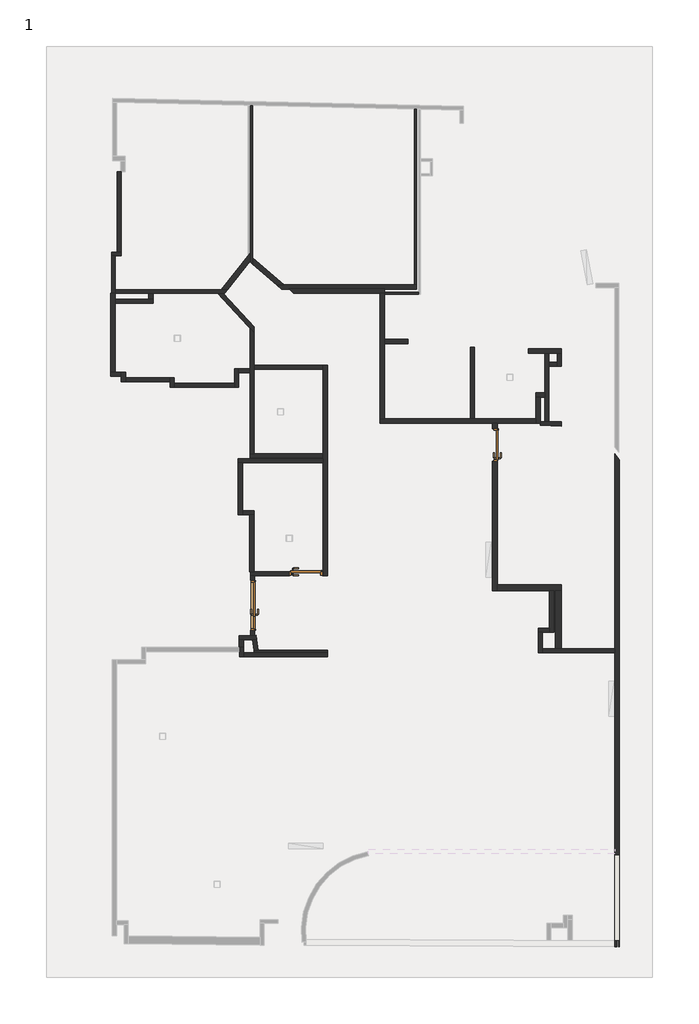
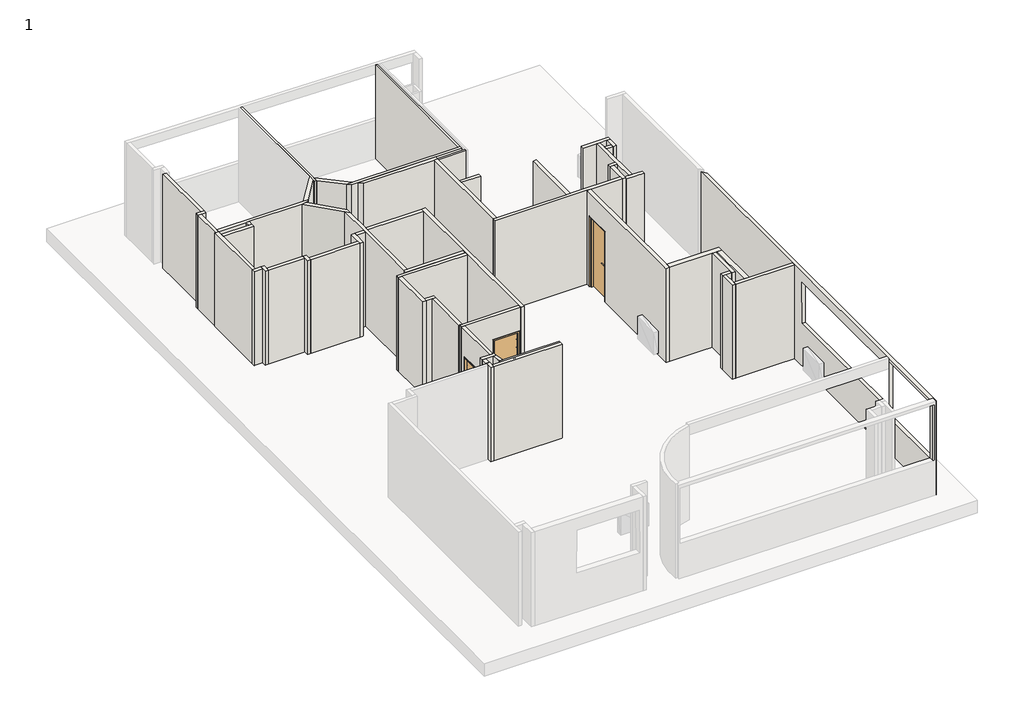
# One storey, part 3 of 11: 57 walls, 3 doors.
"""IFC4 building model written with IfcOpenShell, lengths in millimetres."""

from ifc_helpers import new_model, si_unit, frame, origin, origin_with_axes, place, context, project, spatial, polyline, circle_curve, outline, extrude, faceted_brep, transform, mapped, element, save
from ifc_brep_helpers import plane_surface, cylinder_surface, advanced_brep
from components import door_6d154dac, door_2890b558, jw_interior_door_stable_401_unequal_double_1_0_84d4197c, jw_interior_door_stable_401_unequal_double_1_0_001e30e6

model = new_model("IFC4")

# Units and contexts
model_context = context("Model", 3, world=origin())
ifc_project = project(units=[si_unit("LENGTHUNIT", "METRE", prefix="MILLI")], contexts=[model_context])

# Site, building, storey
site = spatial("IfcSite", under=ifc_project)
building = spatial("IfcBuilding", under=site)
storey = spatial("IfcBuildingStorey", under=building, Name="1", Elevation=0.0)

# Doors
placement = place(None, origin())
door_shape = door_6d154dac(model_context)
element("IfcDoor", 1, ObjectType="JW_Interior_Door_Steady_411_Single_1.0 : 790 x 1890 mm - M8 x M19", at=placement, inside=storey, context=model_context, shape_type="MappedRepresentation", body=[
    mapped(door_shape, transform((45723.359081, 17709.4281393, 0.0), x_axis=(0.0, 1.0, 0.0), y_axis=(-1.0, 0.0, 0.0), z_axis=(0.0, 0.0, 1.0))),
])
door_2_shape = door_2890b558(model_context)
element("IfcDoor", 2, ObjectType="JW_Interior_Door_Steady_411_Single_1.0 : 790 x 1890 mm - M8 x M19", at=placement, inside=storey, context=model_context, shape_type="MappedRepresentation", body=[
    mapped(door_2_shape, transform((41176.985489, 14619.8865738, 0.0), x_axis=(1.0, 0.0, 0.0), y_axis=(0.0, 1.0, 0.0), z_axis=(0.0, 0.0, 1.0))),
])
jw_interior_door_stable_401_unequal_double_1_0_shape = jw_interior_door_stable_401_unequal_double_1_0_84d4197c(model_context)
jw_interior_door_stable_401_unequal_double_1_0_2_shape = jw_interior_door_stable_401_unequal_double_1_0_001e30e6(model_context)
element("IfcDoor", 3, ObjectType="JW_Interior_Door_Stable_401_Unequal_Double_1.0 : 1290 x 2090 mm - M13 (M10+30) x M21", at=placement, inside=storey, context=model_context, shape_type="MappedRepresentation", body=[
    mapped(jw_interior_door_stable_401_unequal_double_1_0_shape, transform((39897.0142855, 13854.8865738, 0.0), x_axis=(0.0, 1.0, 0.0), y_axis=(-1.0, 0.0, 0.0), z_axis=(0.0, 0.0, 1.0))),
    mapped(jw_interior_door_stable_401_unequal_double_1_0_2_shape, transform((39897.0142855, 13854.8865738, 0.0), x_axis=(0.0, 1.0, 0.0), y_axis=(-1.0, 0.0, 0.0), z_axis=(0.0, 0.0, 1.0))),
])

# Walls
element("IfcWall", 4, ObjectType="10", at=placement, inside=storey, context=model_context, shape_type="Brep", body=[
    faceted_brep([(39577.8549068, 12844.7827136, 0.0), (39577.8549068, 12744.7827136, 0.0), (39577.8549068, 12616.7518002, 0.0), (39577.8549068, 12616.7518002, 2930.0), (39577.8549068, 12744.7827136, 2930.0), (39577.8549068, 12844.7827136, 2930.0), (39677.8549068, 12844.7827136, 0.0), (39677.8549068, 12844.7827136, 2930.0), (39677.8549068, 12716.7518002, 2930.0), (39677.8549068, 12616.7518002, 2930.0), (39677.8549068, 12616.7518002, 0.0), (39677.8549068, 12716.7518002, 0.0), (39675.9559803, 12844.7827136, 0.0), (39675.9559803, 12844.7827136, 2930.0)], [[[0, 1, 2, 3, 4, 5]], [[6, 7, 8, 9, 10, 11]], [[2, 1, 0, 12, 6, 11, 10]], [[5, 4, 3, 9, 8, 7, 13]], [[0, 5, 13, 7, 6, 12]], [[3, 2, 10, 9]]]),
])
element("IfcWall", 5, ObjectType="10", at=placement, inside=storey, context=model_context, shape_type="SweptSolid", body=[
    extrude(outline(polyline([(39677.8549068, 12716.7518002), (41695.2431916, 12716.7518002), (41695.2431916, 12616.7518002), (39677.8549068, 12616.7518002), (39677.8549068, 12716.7518002)])), origin_with_axes(), (0.0, 0.0, 1.0), 2930.0),
])
element("IfcWall", 6, ObjectType="10", at=placement, inside=storey, context=model_context, shape_type="Brep", body=[
    faceted_brep([(39944.1322252, 12674.2788305, 0.0), (41695.2431916, 12674.2788305, 0.0), (41695.2431916, 12674.2788305, 2930.0), (39944.1322252, 12674.2788305, 2930.0), (39929.1230947, 12774.2788305, 0.0), (39929.1230947, 12774.2788305, 2930.0), (40030.2431916, 12774.2788305, 2930.0), (41695.2431916, 12774.2788305, 2930.0), (41695.2431916, 12774.2788305, 0.0), (40030.2431916, 12774.2788305, 0.0)], [[[0, 1, 2, 3]], [[4, 5, 6, 7, 8, 9]], [[1, 0, 4, 9, 8]], [[2, 1, 8, 7]], [[3, 2, 7, 6, 5]], [[0, 3, 5, 4]]]),
])
element("IfcWall", 7, ObjectType="10", at=placement, inside=storey, context=model_context, shape_type="Brep", body=[
    faceted_brep([(39976.3695058, 13133.2182507, 0.0), (39947.0142855, 13133.0740126, 0.0), (39847.0142855, 13132.5826586, 0.0), (39575.9559803, 13131.2508028, 0.0), (39575.9559803, 13131.2508028, 2930.0), (39847.0142855, 13132.5826586, 2930.0), (39947.0142855, 13133.0740126, 2930.0), (39976.3695058, 13133.2182507, 2930.0), (39991.3677565, 13033.290738, 0.0), (39991.3677565, 13033.290738, 2930.0), (39890.3221787, 13032.7942465, 2930.0), (39675.9559803, 13031.7409497, 2930.0), (39575.9559803, 13031.2495957, 2930.0), (39575.9559803, 13031.2495957, 0.0), (39675.9559803, 13031.7409497, 0.0), (39890.3221787, 13032.7942465, 0.0)], [[[0, 1, 2, 3, 4, 5, 6, 7]], [[8, 9, 10, 11, 12, 13, 14, 15]], [[3, 2, 1, 0, 8, 15, 14, 13]], [[7, 6, 5, 4, 12, 11, 10, 9]], [[4, 3, 13, 12]], [[0, 7, 9, 8]]]),
])
element("IfcWall", 8, ObjectType="10", at=placement, inside=storey, context=model_context, shape_type="Brep", body=[
    faceted_brep([(39575.9559803, 13031.2495957, 0.0), (39575.9559803, 12844.7827136, 0.0), (39575.9559803, 12844.7827136, 2930.0), (39575.9559803, 13031.2495957, 2930.0), (39675.9559803, 13031.7409497, 0.0), (39675.9559803, 13031.7409497, 2930.0), (39675.9559803, 12844.7827136, 2930.0), (39675.9559803, 12844.7827136, 0.0), (39577.8549068, 12844.7827136, 0.0), (39577.8549068, 12844.7827136, 2930.0)], [[[0, 1, 2, 3]], [[4, 5, 6, 7]], [[1, 0, 4, 7, 8]], [[3, 2, 9, 6, 5]], [[2, 1, 8, 7, 6, 9]], [[0, 3, 5, 4]]]),
])
element("IfcWall", 9, ObjectType="10", at=placement, inside=storey, context=model_context, shape_type="SweptSolid", body=[
    extrude(outline(polyline([(39991.3677565, 13033.290738), (40030.2431916, 12774.2788305), (39929.1230947, 12774.2788305), (39890.3221787, 13032.7942465), (39991.3677565, 13033.290738)])), origin_with_axes(), (0.0, 0.0, 1.0), 2930.0),
])
element("IfcWall", 10, ObjectType="10", at=placement, inside=storey, context=model_context, shape_type="Brep", body=[
    faceted_brep([(36635.0362797, 24276.9082853, 0.0), (36635.0362797, 22338.487544, 0.0), (36635.0362797, 22338.487544, 2930.0), (36635.0362797, 24276.9082853, 2930.0), (36735.0362797, 24276.9082853, 0.0), (36735.0362797, 24276.9082853, 2930.0), (36735.0362797, 22338.487544, 2930.0), (36735.0362797, 22338.487544, 0.0), (36729.253874, 24276.9082853, 0.0), (36729.253874, 24276.9082853, 2930.0)], [[[0, 1, 2, 3]], [[4, 5, 6, 7]], [[1, 0, 8, 4, 7]], [[3, 2, 6, 5, 9]], [[0, 3, 9, 5, 4, 8]], [[2, 1, 7, 6]]]),
])
element("IfcWall", 11, ObjectType="10", at=placement, inside=storey, context=model_context, shape_type="SweptSolid", body=[
    extrude(outline(polyline([(43062.5845465, 20243.4970592), (43630.8109317, 20243.4970592), (43630.8109317, 20143.4970592), (43062.5845465, 20143.4970592), (43062.5845465, 20243.4970592)])), origin_with_axes(), (0.0, 0.0, 1.0), 2930.0),
])
element("IfcWall", 12, ObjectType="10", at=placement, inside=storey, context=model_context, shape_type="Brep", body=[
    faceted_brep([(46709.8270097, 18334.4281393, 0.0), (45224.9879055, 18334.4281393, 0.0), (45124.9879055, 18334.4281393, 0.0), (43062.5845465, 18334.4281393, 0.0), (42962.5845465, 18334.4281393, 0.0), (42962.5845465, 18334.4281393, 2930.0), (43062.5845465, 18334.4281393, 2930.0), (45124.9879055, 18334.4281393, 2930.0), (45224.9879055, 18334.4281393, 2930.0), (46709.8270097, 18334.4281393, 2930.0), (46709.8270097, 18234.4281393, 0.0), (46709.8270097, 18234.4281393, 2930.0), (45783.359081, 18234.4281393, 2930.0), (45663.359081, 18234.4281393, 2930.0), (42962.5845465, 18234.4281393, 2930.0), (42962.5845465, 18234.4281393, 0.0), (45663.359081, 18234.4281393, 0.0), (45783.359081, 18234.4281393, 0.0)], [[[0, 1, 2, 3, 4, 5, 6, 7, 8, 9]], [[10, 11, 12, 13, 14, 15, 16, 17]], [[4, 3, 2, 1, 0, 10, 17, 16, 15]], [[9, 8, 7, 6, 5, 14, 13, 12, 11]], [[5, 4, 15, 14]], [[0, 9, 11, 10]]]),
])
element("IfcWall", 13, ObjectType="10", at=placement, inside=storey, context=model_context, shape_type="Brep", body=[
    faceted_brep([(47133.4901558, 13206.5358144, 0.0), (47133.4901558, 14206.0304058, 0.0), (47133.4901558, 14206.0304058, 2930.0), (47133.4901558, 13206.5358144, 2930.0), (47033.4901558, 13206.5358144, 0.0), (47033.4901558, 13206.5358144, 2930.0), (47033.4901558, 13306.5358144, 2930.0), (47033.4901558, 14206.0304058, 2930.0), (47033.4901558, 14206.0304058, 0.0), (47033.4901558, 13306.5358144, 0.0)], [[[0, 1, 2, 3]], [[4, 5, 6, 7, 8, 9]], [[1, 0, 4, 9, 8]], [[3, 2, 7, 6, 5]], [[0, 3, 5, 4]], [[2, 1, 8, 7]]]),
])
element("IfcWall", 14, ObjectType="10", at=placement, inside=storey, context=model_context, shape_type="Brep", body=[
    faceted_brep([(46761.5820716, 13206.5358144, 0.0), (46861.5820716, 13206.5358144, 0.0), (47033.4901558, 13206.5358144, 0.0), (47033.4901558, 13206.5358144, 2930.0), (46861.5820716, 13206.5358144, 2930.0), (46761.5820716, 13206.5358144, 2930.0), (46761.5820716, 13306.5358144, 0.0), (46761.5820716, 13306.5358144, 2930.0), (47033.4901558, 13306.5358144, 2930.0), (47033.4901558, 13306.5358144, 0.0)], [[[0, 1, 2, 3, 4, 5]], [[6, 7, 8, 9]], [[2, 1, 0, 6, 9]], [[5, 4, 3, 8, 7]], [[3, 2, 9, 8]], [[0, 5, 7, 6]]]),
])
element("IfcWall", 15, ObjectType="10", at=placement, inside=storey, context=model_context, shape_type="Brep", body=[
    faceted_brep([(46861.5820716, 12714.5259381, 0.0), (46861.5820716, 12814.5259381, 0.0), (46861.5820716, 13206.5358144, 0.0), (46861.5820716, 13206.5358144, 2930.0), (46861.5820716, 12814.5259381, 2930.0), (46861.5820716, 12714.5259381, 2930.0), (46761.5820716, 12714.5259381, 0.0), (46761.5820716, 12714.5259381, 2930.0), (46761.5820716, 13206.5358144, 2930.0), (46761.5820716, 13206.5358144, 0.0)], [[[0, 1, 2, 3, 4, 5]], [[6, 7, 8, 9]], [[2, 1, 0, 6, 9]], [[5, 4, 3, 8, 7]], [[3, 2, 9, 8]], [[0, 5, 7, 6]]]),
])
element("IfcWall", 16, ObjectType="10", at=placement, inside=storey, context=model_context, shape_type="Brep", body=[
    faceted_brep([(40588.0933804, 21452.1733453, 0.0), (43832.0328941, 21452.1733453, 0.0), (43832.0328941, 21452.1733453, 2930.0), (40588.0933804, 21452.1733453, 2930.0), (40472.799014, 21552.1733453, 0.0), (40472.799014, 21552.1733453, 2930.0), (40655.9427251, 21552.1733453, 2930.0), (43782.0328941, 21552.1733453, 2930.0), (43832.0328941, 21552.1733453, 2930.0), (43832.0328941, 21552.1733453, 0.0), (43782.0328941, 21552.1733453, 0.0), (40655.9427251, 21552.1733453, 0.0)], [[[0, 1, 2, 3]], [[4, 5, 6, 7, 8, 9, 10, 11]], [[1, 0, 4, 11, 10, 9]], [[3, 2, 8, 7, 6, 5]], [[2, 1, 9, 8]], [[0, 3, 5, 4]]]),
])
element("IfcWall", 17, ObjectType="10", at=placement, inside=storey, context=model_context, shape_type="Brep", body=[
    faceted_brep([(41691.985489, 14569.8865738, 0.0), (41691.985489, 19624.1562218, 0.0), (41691.985489, 19624.1562218, 2930.0), (41691.985489, 14569.8865738, 2930.0), (41591.985489, 14569.8865738, 0.0), (41591.985489, 14569.8865738, 2930.0), (41591.985489, 14669.8865738, 2930.0), (41591.985489, 17279.0614237, 2930.0), (41591.985489, 17379.0614237, 2930.0), (41591.985489, 19524.1562218, 2930.0), (41591.985489, 19624.1562218, 2930.0), (41591.985489, 19624.1562218, 0.0), (41591.985489, 19524.1562218, 0.0), (41591.985489, 17379.0614237, 0.0), (41591.985489, 17279.0614237, 0.0), (41591.985489, 14669.8865738, 0.0)], [[[0, 1, 2, 3]], [[4, 5, 6, 7, 8, 9, 10, 11, 12, 13, 14, 15]], [[1, 0, 4, 15, 14, 13, 12, 11]], [[3, 2, 10, 9, 8, 7, 6, 5]], [[0, 3, 5, 4]], [[2, 1, 11, 10]]]),
])
element("IfcWall", 18, ObjectType="10", at=placement, inside=storey, context=model_context, shape_type="Brep", body=[
    faceted_brep([(41571.6623677, 17498.5737587, 0.0), (39933.200692, 17498.5737587, 0.0), (39833.200692, 17498.5737587, 0.0), (39833.200692, 17498.5737587, 2930.0), (39933.200692, 17498.5737587, 2930.0), (41571.6623677, 17498.5737587, 2930.0), (41571.6623677, 17398.5737587, 0.0), (41571.6623677, 17398.5737587, 2930.0), (39833.200692, 17398.5737587, 2930.0), (39833.200692, 17398.5737587, 0.0)], [[[0, 1, 2, 3, 4, 5]], [[6, 7, 8, 9]], [[2, 1, 0, 6, 9]], [[5, 4, 3, 8, 7]], [[0, 5, 7, 6]], [[3, 2, 9, 8]]]),
])
element("IfcWall", 19, ObjectType="10", at=placement, inside=storey, context=model_context, shape_type="Brep", body=[
    faceted_brep([(43062.5845465, 21455.5715615, 0.0), (40767.3191397, 21455.5715615, 0.0), (40767.3191397, 21455.5715615, 2930.0), (43062.5845465, 21455.5715615, 2930.0), (43062.5845465, 21355.5715615, 0.0), (43062.5845465, 21355.5715615, 2930.0), (42962.5845465, 21355.5715615, 2930.0), (40882.6135061, 21355.5715615, 2930.0), (40882.6135061, 21355.5715615, 0.0), (42962.5845465, 21355.5715615, 0.0), (43062.5845465, 21375.9233453, 0.0), (43062.5845465, 21375.9233453, 2930.0)], [[[0, 1, 2, 3]], [[4, 5, 6, 7, 8, 9]], [[1, 0, 10, 4, 9, 8]], [[3, 2, 7, 6, 5, 11]], [[0, 3, 11, 5, 4, 10]], [[2, 1, 8, 7]]]),
])
element("IfcWall", 20, ObjectType="10", at=placement, inside=storey, context=model_context, shape_type="Brep", body=[
    faceted_brep([(42962.5845465, 21355.5715615, 0.0), (42962.5845465, 18334.4281393, 0.0), (42962.5845465, 18334.4281393, 2930.0), (42962.5845465, 21355.5715615, 2930.0), (43062.5845465, 21355.5715615, 0.0), (43062.5845465, 21355.5715615, 2930.0), (43062.5845465, 21325.9233453, 2930.0), (43062.5845465, 20243.4970592, 2930.0), (43062.5845465, 20143.4970592, 2930.0), (43062.5845465, 18334.4281393, 2930.0), (43062.5845465, 18334.4281393, 0.0), (43062.5845465, 20143.4970592, 0.0), (43062.5845465, 20243.4970592, 0.0), (43062.5845465, 21325.9233453, 0.0)], [[[0, 1, 2, 3]], [[4, 5, 6, 7, 8, 9, 10, 11, 12, 13]], [[1, 0, 4, 13, 12, 11, 10]], [[3, 2, 9, 8, 7, 6, 5]], [[2, 1, 10, 9]], [[0, 3, 5, 4]]]),
])
element("IfcWall", 21, ObjectType="10", at=placement, inside=storey, context=model_context, shape_type="Brep", body=[
    faceted_brep([(46861.5820716, 12714.5259381, 0.0), (48604.3502509, 12714.5259381, 0.0), (48604.3502509, 12714.5259381, 2930.0), (46861.5820716, 12714.5259381, 2930.0), (46861.5820716, 12814.5259381, 0.0), (46861.5820716, 12814.5259381, 2930.0), (47169.1043164, 12814.5259381, 2930.0), (47319.1043164, 12814.5259381, 2930.0), (48604.3502509, 12814.5259381, 2930.0), (48604.3502509, 12814.5259381, 0.0), (47319.1043164, 12814.5259381, 0.0), (47169.1043164, 12814.5259381, 0.0)], [[[0, 1, 2, 3]], [[4, 5, 6, 7, 8, 9, 10, 11]], [[1, 0, 4, 11, 10, 9]], [[3, 2, 8, 7, 6, 5]], [[0, 3, 5, 4]], [[2, 1, 9, 8]]]),
])
element("IfcWall", 22, ObjectType="10", at=placement, inside=storey, context=model_context, shape_type="Brep", body=[
    faceted_brep([(41591.985489, 14569.8865738, 2930.0), (39947.0142855, 14569.8865738, 2930.0), (39847.0142855, 14569.8865738, 2930.0), (39847.0142855, 14569.8865738, 0.0), (39947.0142855, 14569.8865738, 0.0), (40771.985489, 14569.8865738, 0.0), (40771.985489, 14569.8865738, 2210.0), (41581.985489, 14569.8865738, 2210.0), (41581.985489, 14569.8865738, 0.0), (41591.985489, 14569.8865738, 0.0), (39847.0142855, 14669.8865738, 2930.0), (39925.423998, 14669.8865738, 2930.0), (41591.985489, 14669.8865738, 2930.0), (41591.985489, 14669.8865738, 0.0), (41581.985489, 14669.8865738, 0.0), (41581.985489, 14669.8865738, 2210.0), (40771.985489, 14669.8865738, 2210.0), (40771.985489, 14669.8865738, 0.0), (39925.423998, 14669.8865738, 0.0), (39847.0142855, 14669.8865738, 0.0)], [[[0, 1, 2, 3, 4, 5, 6, 7, 8, 9]], [[10, 11, 12, 13, 14, 15, 16, 17, 18, 19]], [[13, 9, 8, 14]], [[3, 19, 18, 17, 5, 4]], [[2, 1, 0, 12, 11, 10]], [[0, 9, 13, 12]], [[3, 2, 10, 19]], [[7, 15, 14, 8]], [[15, 7, 6, 16]], [[16, 6, 5, 17]]]),
])
element("IfcWall", 23, ObjectType="10", at=placement, inside=storey, context=model_context, shape_type="SweptSolid", body=[
    extrude(outline(polyline([(45124.9879055, 18334.4281393), (45124.9879055, 20052.3905873), (45224.9879055, 20052.3905873), (45224.9879055, 18334.4281393), (45124.9879055, 18334.4281393)])), origin_with_axes(), (0.0, 0.0, 1.0), 2930.0),
])
element("IfcWall", 24, ObjectType="10", at=placement, inside=storey, context=model_context, shape_type="Brep", body=[
    faceted_brep([(46526.0847603, 19915.7813206, 0.0), (46918.8776741, 19915.7813206, 0.0), (47018.8776741, 19915.7813206, 0.0), (47217.3020718, 19915.7813206, 0.0), (47317.3032789, 19915.7813206, 0.0), (47317.3032789, 19915.7813206, 2930.0), (47217.3020718, 19915.7813206, 2930.0), (47018.8776741, 19915.7813206, 2930.0), (46918.8776741, 19915.7813206, 2930.0), (46526.0847603, 19915.7813206, 2930.0), (46526.0847603, 20015.7813206, 0.0), (46526.0847603, 20015.7813206, 2930.0), (47316.8119249, 20015.7813206, 2930.0), (47316.8119249, 20015.7813206, 0.0)], [[[0, 1, 2, 3, 4, 5, 6, 7, 8, 9]], [[10, 11, 12, 13]], [[4, 3, 2, 1, 0, 10, 13]], [[9, 8, 7, 6, 5, 12, 11]], [[0, 9, 11, 10]], [[5, 4, 13, 12]]]),
])
element("IfcWall", 25, ObjectType="10", at=placement, inside=storey, context=model_context, shape_type="Brep", body=[
    faceted_brep([(47217.3020718, 19915.7813206, 0.0), (47218.3887344, 19694.6245576, 0.0), (47218.8800884, 19594.6245576, 0.0), (47218.8800884, 19594.6245576, 2930.0), (47218.3887344, 19694.6245576, 2930.0), (47217.3020718, 19915.7813206, 2930.0), (47317.3032789, 19915.7813206, 0.0), (47317.3032789, 19915.7813206, 2930.0), (47318.8812955, 19594.6245576, 2930.0), (47318.8812955, 19594.6245576, 0.0)], [[[0, 1, 2, 3, 4, 5]], [[6, 7, 8, 9]], [[2, 1, 0, 6, 9]], [[5, 4, 3, 8, 7]], [[0, 5, 7, 6]], [[3, 2, 9, 8]]]),
])
element("IfcWall", 26, ObjectType="10", at=placement, inside=storey, context=model_context, shape_type="SweptSolid", body=[
    extrude(outline(polyline([(47018.8776741, 19694.6245576), (47218.3887344, 19694.6245576), (47218.8800884, 19594.6245576), (47018.8776741, 19594.6245576), (47018.8776741, 19694.6245576)])), origin_with_axes(), (0.0, 0.0, 1.0), 2930.0),
])
element("IfcWall", 27, ObjectType="10", at=placement, inside=storey, context=model_context, shape_type="Brep", body=[
    faceted_brep([(46918.8776741, 19915.7813206, 0.0), (46918.8776741, 18958.8111171, 0.0), (46918.8776741, 18858.8111171, 0.0), (46918.8776741, 18278.710138, 0.0), (46918.8776741, 18278.710138, 2930.0), (46918.8776741, 18858.8111171, 2930.0), (46918.8776741, 18958.8111171, 2930.0), (46918.8776741, 19915.7813206, 2930.0), (47018.8776741, 19915.7813206, 0.0), (47018.8776741, 19915.7813206, 2930.0), (47018.8776741, 19694.6245576, 2930.0), (47018.8776741, 19594.6245576, 2930.0), (47018.8776741, 18274.2726559, 2930.0), (47018.8776741, 18274.2726559, 0.0), (47018.8776741, 19594.6245576, 0.0), (47018.8776741, 19694.6245576, 0.0)], [[[0, 1, 2, 3, 4, 5, 6, 7]], [[8, 9, 10, 11, 12, 13, 14, 15]], [[3, 2, 1, 0, 8, 15, 14, 13]], [[7, 6, 5, 4, 12, 11, 10, 9]], [[4, 3, 13, 12]], [[0, 7, 9, 8]]]),
])
element("IfcWall", 28, ObjectType="10", at=placement, inside=storey, context=model_context, shape_type="Brep", body=[
    faceted_brep([(46809.8270097, 18234.4281393, 0.0), (46809.8270097, 18283.5492418, 0.0), (46809.8270097, 18858.8111171, 0.0), (46809.8270097, 18858.8111171, 2930.0), (46809.8270097, 18283.5492418, 2930.0), (46809.8270097, 18234.4281393, 2930.0), (46709.8270097, 18234.4281393, 0.0), (46709.8270097, 18234.4281393, 2930.0), (46709.8270097, 18334.4281393, 2930.0), (46709.8270097, 18858.8111171, 2930.0), (46709.8270097, 18858.8111171, 0.0), (46709.8270097, 18334.4281393, 0.0)], [[[0, 1, 2, 3, 4, 5]], [[6, 7, 8, 9, 10, 11]], [[2, 1, 0, 6, 11, 10]], [[5, 4, 3, 9, 8, 7]], [[3, 2, 10, 9]], [[0, 5, 7, 6]]]),
])
element("IfcWall", 29, ObjectType="10", at=placement, inside=storey, context=model_context, shape_type="Brep", body=[
    faceted_brep([(46709.8270097, 18858.8111171, 0.0), (46809.8270097, 18858.8111171, 0.0), (46918.8776741, 18858.8111171, 0.0), (46918.8776741, 18858.8111171, 2930.0), (46809.8270097, 18858.8111171, 2930.0), (46709.8270097, 18858.8111171, 2930.0), (46709.8270097, 18958.8111171, 0.0), (46709.8270097, 18958.8111171, 2930.0), (46918.8776741, 18958.8111171, 2930.0), (46918.8776741, 18958.8111171, 0.0)], [[[0, 1, 2, 3, 4, 5]], [[6, 7, 8, 9]], [[2, 1, 0, 6, 9]], [[5, 4, 3, 8, 7]], [[0, 5, 7, 6]], [[3, 2, 9, 8]]]),
])
element("IfcWall", 30, ObjectType="10", at=placement, inside=storey, context=model_context, shape_type="Brep", body=[
    faceted_brep([(47317.1632977, 18261.0362848, 0.0), (47018.8776741, 18274.2726559, 0.0), (46918.8776741, 18278.710138, 0.0), (46809.8270097, 18283.5492418, 0.0), (46809.8270097, 18283.5492418, 2930.0), (46918.8776741, 18278.710138, 2930.0), (47018.8776741, 18274.2726559, 2930.0), (47317.1632977, 18261.0362848, 2930.0), (47312.5848823, 18161.1410433, 0.0), (47312.5848823, 18161.1410433, 2930.0), (46809.8270097, 18183.450834, 2930.0), (46809.8270097, 18183.450834, 0.0), (46809.8270097, 18234.4281393, 0.0), (46809.8270097, 18234.4281393, 2930.0)], [[[0, 1, 2, 3, 4, 5, 6, 7]], [[8, 9, 10, 11]], [[3, 2, 1, 0, 8, 11, 12]], [[7, 6, 5, 4, 13, 10, 9]], [[0, 7, 9, 8]], [[4, 3, 12, 11, 10, 13]]]),
])
element("IfcWall", 31, ObjectType="10", at=placement, inside=storey, context=model_context, shape_type="AdvancedBrep", body=[
    advanced_brep(
    [(48604.3502509, 17492.5243875, 0.0), (48604.3502509, 12814.5259381, 0.0), (48604.3502509, 12714.5259381, 0.0), (48604.3502509, 5651.9570747, 0.0), (48604.3502509, 5651.9570747, 2930.0), (48604.3502509, 7896.1964771, 2930.0), (48604.3502509, 7996.1964771, 2930.0), (48604.3502509, 12714.5259381, 2930.0), (48604.3502509, 12814.5259381, 2930.0), (48604.3502509, 17492.5243875, 2930.0), (48604.3502509, 12339.3171184, 2616.0), (48604.3502509, 7880.6171184, 2611.0), (48604.3502509, 7876.7171184, 1339.0), (48604.3502509, 12334.1171184, 1331.0), (48604.3502509, 5801.6499447, 2820.0), (48604.3502509, 5801.6499447, 1100.0), (48604.3502509, 7871.6929382, 1100.0), (48604.3502509, 7871.6929382, 2820.0), (48704.3502509, 17350.3450807, 0.0), (48704.3502509, 17350.3450807, 2930.0), (48704.3502509, 5651.4186257, 2930.0), (48704.3502509, 5651.4186257, 0.0), (48704.3502509, 12339.3171184, 2616.0), (48704.3502509, 12334.1171184, 1331.0), (48704.3502509, 7876.7171184, 1339.0), (48704.3502509, 7880.6171184, 2611.0), (48704.3502509, 5801.6499447, 2820.0), (48704.3502509, 7871.6929382, 2820.0), (48704.3502509, 7871.6929382, 1100.0), (48704.3502509, 5801.6499447, 1100.0)],
    [
        (0, 1),
        (1, 2),
        (2, 3),
        (3, 4),
        (4, 5),
        (5, 6),
        (6, 7),
        (7, 8),
        (8, 9),
        (9, 0),
        (10, 11),
        (11, 12),
        (12, 13),
        (13, 10),
        (14, 15),
        (15, 16),
        (16, 17),
        (17, 14),
        (18, 19),
        (19, 20),
        (20, 21),
        (21, 18),
        (22, 23),
        (23, 24),
        (24, 25),
        (25, 22),
        (26, 27),
        (27, 28),
        (28, 29),
        (29, 26),
        (9, 19, circle_curve(frame((47230.1632712, 16419.7510067, 2930.0), z_axis=(0.0, 0.0, -1.0), x_axis=(1.0, 0.0, 0.0)), 1743.3394913)),
        (18, 0, circle_curve(frame((47230.1632712, 16419.7510067, 0.0), z_axis=(0.0, 0.0, 1.0), x_axis=(1.0, 0.0, 0.0)), 1743.3394913)),
        (21, 3),
        (4, 20),
        (10, 22),
        (25, 11),
        (24, 12),
        (23, 13),
        (14, 26),
        (29, 15),
        (28, 16),
        (27, 17),
    ],
    [
        plane_surface(frame((48604.3502509, 17509.5941044, 0.0), z_axis=(-1.0, 0.0, 0.0), x_axis=(0.0, -1.0, 0.0))),
        plane_surface(frame((48704.3502509, 17509.5941044, 0.0), z_axis=(1.0, 0.0, 0.0), x_axis=(0.0, 1.0, 0.0))),
        cylinder_surface(frame((47230.1632712, 16419.7510067, 0.0), z_axis=(0.0, 0.0, -1.0), x_axis=(1.0, 0.0, 0.0)), 1743.3394913),
        plane_surface(frame((48604.3502509, 17509.5941044, 0.0), z_axis=(0.0, 0.0, -1.0), x_axis=(1.0, 0.0, 0.0))),
        plane_surface(frame((48604.3502509, 5726.6889374, 2930.0), z_axis=(0.0, 0.0, 1.0), x_axis=(1.0, 0.0, 0.0))),
        plane_surface(frame((48604.3502509, 12339.3171184, 2616.0), z_axis=(0.0, 0.001121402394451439, -0.9999993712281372), x_axis=(1.0, 0.0, 0.0))),
        plane_surface(frame((48604.3502509, 7880.6171184, 2611.0), z_axis=(0.0, 0.9999952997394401, -0.0030660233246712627), x_axis=(1.0, 0.0, 0.0))),
        plane_surface(frame((48604.3502509, 7876.7171184, 1339.0), z_axis=(0.0, 0.0017947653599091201, 0.9999983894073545), x_axis=(1.0, 0.0, 0.0))),
        plane_surface(frame((48604.3502509, 12334.1171184, 1331.0), z_axis=(0.0, -0.9999918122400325, 0.004046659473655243), x_axis=(1.0, 0.0, 0.0))),
        plane_surface(frame((48604.3502509, 5801.6499447, 2820.0), z_axis=(0.0, 1.0, 0.0), x_axis=(1.0, 0.0, 0.0))),
        plane_surface(frame((48604.3502509, 5801.6499447, 1100.0), z_axis=(0.0, 0.0, 1.0), x_axis=(1.0, 0.0, 0.0))),
        plane_surface(frame((48604.3502509, 7871.6929382, 1100.0), z_axis=(0.0, -1.0, 0.0), x_axis=(1.0, 0.0, 0.0))),
        plane_surface(frame((48604.3502509, 7871.6929382, 2820.0), z_axis=(0.0, 0.0, -1.0), x_axis=(1.0, 0.0, 0.0))),
        plane_surface(frame((48660.9861681, 5651.6521191, 0.0), z_axis=(-0.005384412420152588, -0.9999855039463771, 0.0), x_axis=(0.9999855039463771, -0.005384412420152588, 0.0))),
    ],
    [
        (0, [[1, 2, 3, 4, 5, 6, 7, 8, 9, 10], [11, 12, 13, 14], [15, 16, 17, 18]]),
        (1, [[19, 20, 21, 22], [23, 24, 25, 26], [27, 28, 29, 30]]),
        (2, [[-10, 31, -19, 32]]),
        (3, [[-3, -2, -1, -32, -22, 33]]),
        (4, [[-9, -8, -7, -6, -5, 34, -20, -31]]),
        (5, [[-11, 35, -26, 36]]),
        (6, [[-12, -36, -25, 37]]),
        (7, [[-13, -37, -24, 38]]),
        (8, [[-14, -38, -23, -35]]),
        (9, [[-15, 39, -30, 40]]),
        (10, [[-16, -40, -29, 41]]),
        (11, [[-17, -41, -28, 42]]),
        (12, [[-18, -42, -27, -39]]),
        (13, [[-33, -21, -34, -4]]),
    ],
),
])
element("IfcWall", 32, ObjectType="10", at=placement, inside=storey, context=model_context, shape_type="Brep", body=[
    faceted_brep([(39847.0142855, 13132.5826586, 2930.0), (39847.0142855, 14569.8865738, 2930.0), (39847.0142855, 14569.8865738, 0.0), (39847.0142855, 14464.8865738, 0.0), (39847.0142855, 14464.8865738, 2100.0), (39847.0142855, 13244.8865738, 2100.0), (39847.0142855, 13244.8865738, 0.0), (39847.0142855, 13132.5826586, 0.0), (39947.0142855, 14569.8865738, 2930.0), (39947.0142855, 13133.0740126, 2930.0), (39947.0142855, 13133.0740126, 0.0), (39947.0142855, 13244.8865738, 0.0), (39947.0142855, 13244.8865738, 2100.0), (39947.0142855, 14464.8865738, 2100.0), (39947.0142855, 14464.8865738, 0.0), (39947.0142855, 14569.8865738, 0.0)], [[[0, 1, 2, 3, 4, 5, 6, 7]], [[8, 9, 10, 11, 12, 13, 14, 15]], [[2, 15, 14, 3]], [[10, 7, 6, 11]], [[1, 0, 9, 8]], [[2, 1, 8, 15]], [[0, 7, 10, 9]], [[13, 4, 3, 14]], [[4, 13, 12, 5]], [[5, 12, 11, 6]]]),
])
element("IfcWall", 33, ObjectType="10", at=placement, inside=storey, context=model_context, shape_type="Brep", body=[
    faceted_brep([(39050.9521126, 21351.7754811, 0.0), (39833.200692, 20513.5461955, 0.0), (39933.200692, 20406.3898123, 0.0), (39933.200692, 20406.3898123, 2930.0), (39833.200692, 20513.5461955, 2930.0), (39050.9521126, 21351.7754811, 2930.0), (39187.7326378, 21351.7754811, 0.0), (39187.7326378, 21351.7754811, 2930.0), (39933.200692, 20552.9588761, 2930.0), (39933.200692, 20552.9588761, 0.0)], [[[0, 1, 2, 3, 4, 5]], [[6, 7, 8, 9]], [[2, 1, 0, 6, 9]], [[5, 4, 3, 8, 7]], [[0, 5, 7, 6]], [[3, 2, 9, 8]]]),
])
element("IfcWall", 34, ObjectType="10", at=placement, inside=storey, context=model_context, shape_type="Brep", body=[
    faceted_brep([(39833.200692, 20513.5461955, 0.0), (39833.200692, 19541.5008997, 0.0), (39833.200692, 19441.5008997, 0.0), (39833.200692, 17498.5737587, 0.0), (39833.200692, 17498.5737587, 2930.0), (39833.200692, 19441.5008997, 2930.0), (39833.200692, 19541.5008997, 2930.0), (39833.200692, 20513.5461955, 2930.0), (39933.200692, 20406.3898123, 0.0), (39933.200692, 20406.3898123, 2930.0), (39933.200692, 19624.1562218, 2930.0), (39933.200692, 19524.1562218, 2930.0), (39933.200692, 17498.5737587, 2930.0), (39933.200692, 17498.5737587, 0.0), (39933.200692, 19524.1562218, 0.0), (39933.200692, 19624.1562218, 0.0)], [[[0, 1, 2, 3, 4, 5, 6, 7]], [[8, 9, 10, 11, 12, 13, 14, 15]], [[3, 2, 1, 0, 8, 15, 14, 13]], [[7, 6, 5, 4, 12, 11, 10, 9]], [[0, 7, 9, 8]], [[4, 3, 13, 12]]]),
])
element("IfcWall", 35, ObjectType="10", at=placement, inside=storey, context=model_context, shape_type="SweptSolid", body=[
    extrude(outline(polyline([(41591.985489, 19524.1562218), (39933.200692, 19524.1562218), (39933.200692, 19624.1562218), (41591.985489, 19624.1562218), (41591.985489, 19524.1562218)])), origin_with_axes(), (0.0, 0.0, 1.0), 2930.0),
])
element("IfcWall", 36, ObjectType="10", at=placement, inside=storey, context=model_context, shape_type="SweptSolid", body=[
    extrude(outline(polyline([(39563.7504489, 19541.5008997), (39833.200692, 19541.5008997), (39833.200692, 19441.5008997), (39563.7504489, 19441.5008997), (39563.7504489, 19541.5008997)])), origin_with_axes(), (0.0, 0.0, 1.0), 2930.0),
])
element("IfcWall", 37, ObjectType="10", at=placement, inside=storey, context=model_context, shape_type="Brep", body=[
    faceted_brep([(39463.7504489, 19541.5008997, 0.0), (39463.7504489, 19195.1617865, 0.0), (39463.7504489, 19095.1617865, 0.0), (39463.7504489, 19095.1617865, 2930.0), (39463.7504489, 19195.1617865, 2930.0), (39463.7504489, 19541.5008997, 2930.0), (39563.7504489, 19541.5008997, 0.0), (39563.7504489, 19541.5008997, 2930.0), (39563.7504489, 19441.5008997, 2930.0), (39563.7504489, 19095.1617865, 2930.0), (39563.7504489, 19095.1617865, 0.0), (39563.7504489, 19441.5008997, 0.0)], [[[0, 1, 2, 3, 4, 5]], [[6, 7, 8, 9, 10, 11]], [[2, 1, 0, 6, 11, 10]], [[5, 4, 3, 9, 8, 7]], [[0, 5, 7, 6]], [[3, 2, 10, 9]]]),
])
element("IfcWall", 38, ObjectType="10", at=placement, inside=storey, context=model_context, shape_type="SweptSolid", body=[
    extrude(outline(polyline([(38008.3368224, 19195.1617865), (39463.7504489, 19195.1617865), (39463.7504489, 19095.1617865), (38008.3368224, 19095.1617865), (38008.3368224, 19195.1617865)])), origin_with_axes(), (0.0, 0.0, 1.0), 2930.0),
])
element("IfcWall", 39, ObjectType="10", at=placement, inside=storey, context=model_context, shape_type="Brep", body=[
    faceted_brep([(38008.3368224, 19095.1617865, 0.0), (38008.3368224, 19195.1617865, 0.0), (38008.3368224, 19328.0121652, 0.0), (38008.3368224, 19328.0121652, 2930.0), (38008.3368224, 19195.1617865, 2930.0), (38008.3368224, 19095.1617865, 2930.0), (37908.3368224, 19095.1617865, 0.0), (37908.3368224, 19095.1617865, 2930.0), (37908.3368224, 19228.0121652, 2930.0), (37908.3368224, 19328.0121652, 2930.0), (37908.3368224, 19328.0121652, 0.0), (37908.3368224, 19228.0121652, 0.0)], [[[0, 1, 2, 3, 4, 5]], [[6, 7, 8, 9, 10, 11]], [[2, 1, 0, 6, 11, 10]], [[5, 4, 3, 9, 8, 7]], [[0, 5, 7, 6]], [[3, 2, 10, 9]]]),
])
element("IfcWall", 40, ObjectType="10", at=placement, inside=storey, context=model_context, shape_type="SweptSolid", body=[
    extrude(outline(polyline([(36841.9787823, 19328.0121652), (37908.3368224, 19328.0121652), (37908.3368224, 19228.0121652), (36841.9787823, 19228.0121652), (36841.9787823, 19328.0121652)])), origin_with_axes(), (0.0, 0.0, 1.0), 2930.0),
])
element("IfcWall", 41, ObjectType="10", at=placement, inside=storey, context=model_context, shape_type="Brep", body=[
    faceted_brep([(36841.9787823, 19228.0121652, 0.0), (36841.9787823, 19328.0121652, 0.0), (36841.9787823, 19454.3174421, 0.0), (36841.9787823, 19454.3174421, 2930.0), (36841.9787823, 19328.0121652, 2930.0), (36841.9787823, 19228.0121652, 2930.0), (36741.9787823, 19228.0121652, 0.0), (36741.9787823, 19228.0121652, 2930.0), (36741.9787823, 19354.3174421, 2930.0), (36741.9787823, 19454.3174421, 2930.0), (36741.9787823, 19454.3174421, 0.0), (36741.9787823, 19354.3174421, 0.0)], [[[0, 1, 2, 3, 4, 5]], [[6, 7, 8, 9, 10, 11]], [[2, 1, 0, 6, 11, 10]], [[5, 4, 3, 9, 8, 7]], [[0, 5, 7, 6]], [[3, 2, 10, 9]]]),
])
element("IfcWall", 42, ObjectType="10", at=placement, inside=storey, context=model_context, shape_type="Brep", body=[
    faceted_brep([(36741.9787823, 19454.3174421, 0.0), (36588.7972847, 19454.3174421, 0.0), (36488.7972847, 19454.3174421, 0.0), (36488.7972847, 19454.3174421, 2930.0), (36588.7972847, 19454.3174421, 2930.0), (36741.9787823, 19454.3174421, 2930.0), (36741.9787823, 19354.3174421, 0.0), (36741.9787823, 19354.3174421, 2930.0), (36488.7972847, 19354.3174421, 2930.0), (36488.7972847, 19354.3174421, 0.0)], [[[0, 1, 2, 3, 4, 5]], [[6, 7, 8, 9]], [[2, 1, 0, 6, 9]], [[5, 4, 3, 8, 7]], [[0, 5, 7, 6]], [[3, 2, 9, 8]]]),
])
element("IfcWall", 43, ObjectType="10", at=placement, inside=storey, context=model_context, shape_type="Brep", body=[
    faceted_brep([(36588.7972847, 19454.3174421, 0.0), (36588.7972847, 21113.0934632, 0.0), (36588.7972847, 21213.0934632, 0.0), (36588.7972847, 21351.7754811, 0.0), (36588.7972847, 21351.7754811, 2930.0), (36588.7972847, 21213.0934632, 2930.0), (36588.7972847, 21113.0934632, 2930.0), (36588.7972847, 19454.3174421, 2930.0), (36488.7972847, 19454.3174421, 0.0), (36488.7972847, 19454.3174421, 2930.0), (36488.7972847, 21351.7754811, 2930.0), (36488.7972847, 21351.7754811, 0.0), (36504.6763128, 21351.7754811, 0.0), (36504.6763128, 21351.7754811, 2930.0)], [[[0, 1, 2, 3, 4, 5, 6, 7]], [[8, 9, 10, 11]], [[3, 2, 1, 0, 8, 11, 12]], [[7, 6, 5, 4, 13, 10, 9]], [[4, 3, 12, 11, 10, 13]], [[0, 7, 9, 8]]]),
])
element("IfcWall", 44, ObjectType="10", at=placement, inside=storey, context=model_context, shape_type="Brep", body=[
    faceted_brep([(36588.7972847, 21113.0934632, 0.0), (37498.7972847, 21113.0934632, 0.0), (37498.7972847, 21113.0934632, 2930.0), (36588.7972847, 21113.0934632, 2930.0), (36588.7972847, 21213.0934632, 0.0), (36588.7972847, 21213.0934632, 2930.0), (37398.7972847, 21213.0934632, 2930.0), (37498.7972847, 21213.0934632, 2930.0), (37498.7972847, 21213.0934632, 0.0), (37398.7972847, 21213.0934632, 0.0)], [[[0, 1, 2, 3]], [[4, 5, 6, 7, 8, 9]], [[1, 0, 4, 9, 8]], [[3, 2, 7, 6, 5]], [[0, 3, 5, 4]], [[2, 1, 8, 7]]]),
])
element("IfcWall", 45, ObjectType="10", at=placement, inside=storey, context=model_context, shape_type="SweptSolid", body=[
    extrude(outline(polyline([(37498.7972847, 21351.7754811), (37498.7972847, 21213.0934632), (37398.7972847, 21213.0934632), (37398.7972847, 21351.7754811), (37498.7972847, 21351.7754811)])), origin_with_axes(), (0.0, 0.0, 1.0), 2930.0),
])
element("IfcWall", 46, ObjectType="10", at=placement, inside=storey, context=model_context, shape_type="Brep", body=[
    faceted_brep([(39551.7794713, 17279.0614237, 0.0), (39651.7794713, 17279.0614237, 0.0), (41591.985489, 17279.0614237, 0.0), (41591.985489, 17279.0614237, 2930.0), (39651.7794713, 17279.0614237, 2930.0), (39551.7794713, 17279.0614237, 2930.0), (39551.7794713, 17379.0614237, 0.0), (39551.7794713, 17379.0614237, 2930.0), (41591.985489, 17379.0614237, 2930.0), (41591.985489, 17379.0614237, 0.0)], [[[0, 1, 2, 3, 4, 5]], [[6, 7, 8, 9]], [[2, 1, 0, 6, 9]], [[5, 4, 3, 8, 7]], [[3, 2, 9, 8]], [[0, 5, 7, 6]]]),
])
element("IfcWall", 47, ObjectType="10", at=placement, inside=storey, context=model_context, shape_type="Brep", body=[
    faceted_brep([(39651.7794713, 16029.3170598, 0.0), (39651.7794713, 16129.3170598, 0.0), (39651.7794713, 17279.0614237, 0.0), (39651.7794713, 17279.0614237, 2930.0), (39651.7794713, 16129.3170598, 2930.0), (39651.7794713, 16029.3170598, 2930.0), (39551.7794713, 16029.3170598, 0.0), (39551.7794713, 16029.3170598, 2930.0), (39551.7794713, 17279.0614237, 2930.0), (39551.7794713, 17279.0614237, 0.0)], [[[0, 1, 2, 3, 4, 5]], [[6, 7, 8, 9]], [[2, 1, 0, 6, 9]], [[5, 4, 3, 8, 7]], [[3, 2, 9, 8]], [[0, 5, 7, 6]]]),
])
element("IfcWall", 48, ObjectType="10", at=placement, inside=storey, context=model_context, shape_type="Brep", body=[
    faceted_brep([(39925.423998, 16129.3170598, 0.0), (39651.7794713, 16129.3170598, 0.0), (39651.7794713, 16129.3170598, 2930.0), (39925.423998, 16129.3170598, 2930.0), (39925.423998, 16029.3170598, 0.0), (39925.423998, 16029.3170598, 2930.0), (39825.423998, 16029.3170598, 2930.0), (39651.7794713, 16029.3170598, 2930.0), (39651.7794713, 16029.3170598, 0.0), (39825.423998, 16029.3170598, 0.0)], [[[0, 1, 2, 3]], [[4, 5, 6, 7, 8, 9]], [[1, 0, 4, 9, 8]], [[3, 2, 7, 6, 5]], [[2, 1, 8, 7]], [[0, 3, 5, 4]]]),
])
element("IfcWall", 49, ObjectType="10", at=placement, inside=storey, context=model_context, shape_type="Brep", body=[
    faceted_brep([(39925.423998, 14669.8865738, 0.0), (39925.423998, 16029.3170598, 0.0), (39925.423998, 16029.3170598, 2930.0), (39925.423998, 14669.8865738, 2930.0), (39825.423998, 14669.8865738, 0.0), (39825.423998, 14669.8865738, 2930.0), (39825.423998, 16029.3170598, 2930.0), (39825.423998, 16029.3170598, 0.0), (39847.0142855, 14669.8865738, 0.0), (39847.0142855, 14669.8865738, 2930.0)], [[[0, 1, 2, 3]], [[4, 5, 6, 7]], [[1, 0, 8, 4, 7]], [[3, 2, 6, 5, 9]], [[2, 1, 7, 6]], [[0, 3, 9, 5, 4, 8]]]),
])
element("IfcWall", 50, ObjectType="12", at=placement, inside=storey, context=model_context, shape_type="Brep", body=[
    faceted_brep([(39840.4867294, 22315.7833962, 0.0), (39790.4867294, 22253.1989564, 0.0), (39142.2237764, 21441.7754811, 0.0), (39142.2237764, 21441.7754811, 2930.0), (39790.4867294, 22253.1989564, 2930.0), (39840.4867294, 22315.7833962, 2930.0), (39840.4867294, 22123.53138, 0.0), (39840.4867294, 22123.53138, 2930.0), (39295.8178781, 21441.7754811, 2930.0), (39295.8178781, 21441.7754811, 0.0)], [[[0, 1, 2, 3, 4, 5]], [[6, 7, 8, 9]], [[2, 1, 0, 6, 9]], [[5, 4, 3, 8, 7]], [[3, 2, 9, 8]], [[0, 5, 7, 6]]]),
])
element("IfcWall", 51, ObjectType="12", at=placement, inside=storey, context=model_context, shape_type="Brep", body=[
    faceted_brep([(45783.359081, 18234.4281393, 2930.0), (45783.359081, 14356.0304058, 2930.0), (45783.359081, 14206.0304058, 2930.0), (45783.359081, 14206.0304058, 0.0), (45783.359081, 14356.0304058, 0.0), (45783.359081, 17304.4281393, 0.0), (45783.359081, 17304.4281393, 2210.0), (45783.359081, 18114.4281393, 2210.0), (45783.359081, 18114.4281393, 0.0), (45783.359081, 18234.4281393, 0.0), (45663.359081, 14206.0304058, 2930.0), (45663.359081, 18234.4281393, 2930.0), (45663.359081, 18234.4281393, 0.0), (45663.359081, 18114.4281393, 0.0), (45663.359081, 18114.4281393, 2210.0), (45663.359081, 17304.4281393, 2210.0), (45663.359081, 17304.4281393, 0.0), (45663.359081, 14206.0304058, 0.0)], [[[0, 1, 2, 3, 4, 5, 6, 7, 8, 9]], [[10, 11, 12, 13, 14, 15, 16, 17]], [[12, 9, 8, 13]], [[3, 17, 16, 5, 4]], [[2, 1, 0, 11, 10]], [[0, 9, 12, 11]], [[7, 14, 13, 8]], [[14, 7, 6, 15]], [[15, 6, 5, 16]], [[3, 2, 10, 17]]]),
])
element("IfcWall", 52, ObjectType="12", at=placement, inside=storey, context=model_context, shape_type="SweptSolid", body=[
    extrude(outline(polyline([(40472.799014, 21552.1733453), (39895.5964247, 22052.8071641), (39895.5964247, 22211.6559586), (40655.9427251, 21552.1733453), (40472.799014, 21552.1733453)])), origin_with_axes(), (0.0, 0.0, 1.0), 2930.0),
])
element("IfcWall", 53, ObjectType="15", at=placement, inside=storey, context=model_context, shape_type="Brep", body=[
    faceted_brep([(45783.359081, 14206.0304058, 0.0), (47033.4901558, 14206.0304058, 0.0), (47133.4901558, 14206.0304058, 0.0), (47169.1043164, 14206.0304058, 0.0), (47319.1043164, 14206.0304058, 0.0), (47319.1043164, 14206.0304058, 2930.0), (47169.1043164, 14206.0304058, 2930.0), (47133.4901558, 14206.0304058, 2930.0), (47033.4901558, 14206.0304058, 2930.0), (45783.359081, 14206.0304058, 2930.0), (45783.359081, 14356.0304058, 0.0), (45783.359081, 14356.0304058, 2930.0), (47319.1043164, 14356.0304058, 2930.0), (47319.1043164, 14356.0304058, 0.0)], [[[0, 1, 2, 3, 4, 5, 6, 7, 8, 9]], [[10, 11, 12, 13]], [[4, 3, 2, 1, 0, 10, 13]], [[9, 8, 7, 6, 5, 12, 11]], [[5, 4, 13, 12]], [[0, 9, 11, 10]]]),
])
element("IfcWall", 54, ObjectType="15", at=placement, inside=storey, context=model_context, shape_type="SweptSolid", body=[
    extrude(outline(polyline([(47169.1043164, 12814.5259381), (47169.1043164, 14206.0304058), (47319.1043164, 14206.0304058), (47319.1043164, 12814.5259381), (47169.1043164, 12814.5259381)])), origin_with_axes(), (0.0, 0.0, 1.0), 2930.0),
])
element("IfcWall", 55, ObjectType="5", at=placement, inside=storey, context=model_context, shape_type="Brep", body=[
    faceted_brep([(39845.5964247, 25862.2915493, 2930.0), (39845.5964247, 25862.2915493, 0.0), (39845.5964247, 22096.1744175, 0.0), (39845.5964247, 22096.1744175, 2930.0), (39895.5964247, 25861.1744175, 0.0), (39895.5964247, 25861.1744175, 2930.0), (39895.5964247, 22211.6559586, 2930.0), (39895.5964247, 22052.8071641, 2930.0), (39895.5964247, 22052.8071641, 0.0), (39895.5964247, 22211.6559586, 0.0)], [[[0, 1, 2, 3]], [[4, 5, 6, 7, 8, 9]], [[2, 1, 4, 9, 8]], [[0, 3, 7, 6, 5]], [[0, 5, 4, 1]], [[3, 2, 8, 7]]]),
])
element("IfcWall", 56, ObjectType="5", at=placement, inside=storey, context=model_context, shape_type="SweptSolid", body=[
    extrude(outline(polyline([(43832.0328941, 25773.2240469), (43832.0328941, 21552.1733453), (43782.0328941, 21552.1733453), (43782.0328941, 25774.3411788), (43832.0328941, 25773.2240469)])), origin_with_axes(), (0.0, 0.0, 1.0), 2930.0),
])
element("IfcWall", 57, ObjectType="5", at=placement, inside=storey, context=model_context, shape_type="Brep", body=[
    faceted_brep([(43884.7838788, 21375.9233453, 0.0), (43062.5845465, 21375.9233453, 0.0), (43062.5845465, 21375.9233453, 2930.0), (43884.7838788, 21375.9233453, 2930.0), (43884.7838788, 21325.9233453, 0.0), (43884.7838788, 21325.9233453, 2930.0), (43062.5845465, 21325.9233453, 2930.0), (43062.5845465, 21325.9233453, 0.0), (43062.5845465, 21355.5715615, 0.0), (43062.5845465, 21355.5715615, 2930.0)], [[[0, 1, 2, 3]], [[4, 5, 6, 7]], [[1, 0, 4, 7, 8]], [[3, 2, 9, 6, 5]], [[0, 3, 5, 4]], [[2, 1, 8, 7, 6, 9]]]),
])
element("IfcWall", 58, ObjectType="8 cm", at=placement, inside=storey, context=model_context, shape_type="Brep", body=[
    faceted_brep([(36504.6763128, 22248.487544, 0.0), (36594.6763128, 22248.487544, 0.0), (36735.0362797, 22248.487544, 0.0), (36735.0362797, 22248.487544, 2930.0), (36594.6763128, 22248.487544, 2930.0), (36504.6763128, 22248.487544, 2930.0), (36504.6763128, 22338.487544, 0.0), (36504.6763128, 22338.487544, 2930.0), (36635.0362797, 22338.487544, 2930.0), (36735.0362797, 22338.487544, 2930.0), (36735.0362797, 22338.487544, 0.0), (36635.0362797, 22338.487544, 0.0)], [[[0, 1, 2, 3, 4, 5]], [[6, 7, 8, 9, 10, 11]], [[2, 1, 0, 6, 11, 10]], [[5, 4, 3, 9, 8, 7]], [[3, 2, 10, 9]], [[0, 5, 7, 6]]]),
])
element("IfcWall", 59, ObjectType="8 cm", at=placement, inside=storey, context=model_context, shape_type="Brep", body=[
    faceted_brep([(36594.6763128, 21351.7754811, 0.0), (36594.6763128, 21441.7754811, 0.0), (36594.6763128, 22248.487544, 0.0), (36594.6763128, 22248.487544, 2930.0), (36594.6763128, 21441.7754811, 2930.0), (36594.6763128, 21351.7754811, 2930.0), (36504.6763128, 21351.7754811, 0.0), (36504.6763128, 21351.7754811, 2930.0), (36504.6763128, 22248.487544, 2930.0), (36504.6763128, 22248.487544, 0.0), (36588.7972847, 21351.7754811, 0.0), (36588.7972847, 21351.7754811, 2930.0)], [[[0, 1, 2, 3, 4, 5]], [[6, 7, 8, 9]], [[2, 1, 0, 10, 6, 9]], [[5, 4, 3, 8, 7, 11]], [[3, 2, 9, 8]], [[0, 5, 11, 7, 6, 10]]]),
])
element("IfcWall", 60, ObjectType="8 cm", at=placement, inside=storey, context=model_context, shape_type="Brep", body=[
    faceted_brep([(39295.8178781, 21441.7754811, 0.0), (39142.2237764, 21441.7754811, 0.0), (36594.6763128, 21441.7754811, 0.0), (36594.6763128, 21441.7754811, 2930.0), (39142.2237764, 21441.7754811, 2930.0), (39295.8178781, 21441.7754811, 2930.0), (39223.9150215, 21351.7754811, 0.0), (39223.9150215, 21351.7754811, 2930.0), (39187.7326378, 21351.7754811, 2930.0), (39050.9521126, 21351.7754811, 2930.0), (37498.7972847, 21351.7754811, 2930.0), (37398.7972847, 21351.7754811, 2930.0), (36594.6763128, 21351.7754811, 2930.0), (36594.6763128, 21351.7754811, 0.0), (37398.7972847, 21351.7754811, 0.0), (37498.7972847, 21351.7754811, 0.0), (39050.9521126, 21351.7754811, 0.0), (39187.7326378, 21351.7754811, 0.0)], [[[0, 1, 2, 3, 4, 5]], [[6, 7, 8, 9, 10, 11, 12, 13, 14, 15, 16, 17]], [[2, 1, 0, 6, 17, 16, 15, 14, 13]], [[5, 4, 3, 12, 11, 10, 9, 8, 7]], [[3, 2, 13, 12]], [[0, 5, 7, 6]]]),
])

save(model, "model.ifc")
